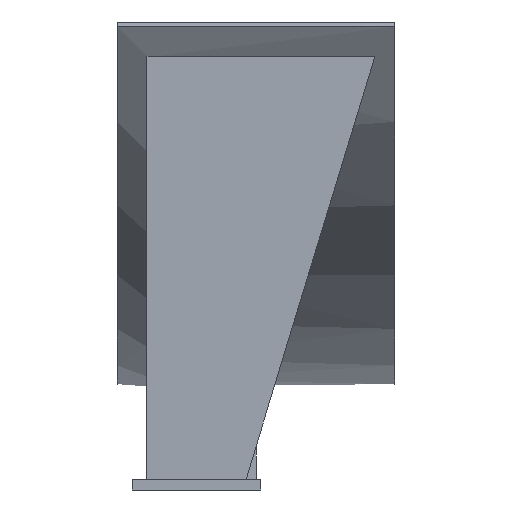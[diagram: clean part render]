
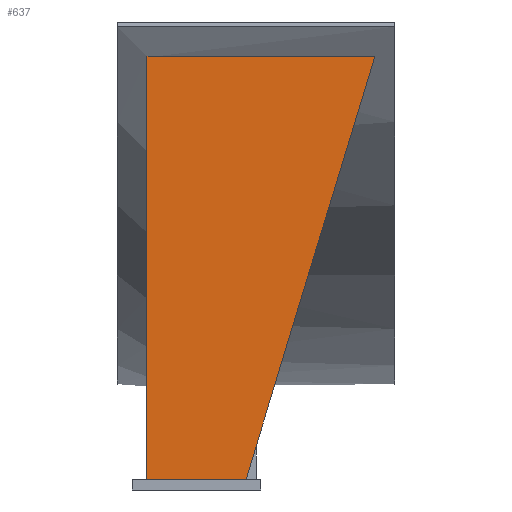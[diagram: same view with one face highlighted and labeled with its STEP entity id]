
A CAD part, front view. The second image highlights one B-rep face of the part: STEP entity #637.
In plain terms, the highlighted planar face has unit normal (0, -1, 0).
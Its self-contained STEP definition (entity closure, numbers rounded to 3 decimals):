
#55=FACE_OUTER_BOUND('',#89,.T.);
#89=EDGE_LOOP('',(#479,#480,#481,#482));
#150=LINE('',#993,#226);
#154=LINE('',#1001,#230);
#155=LINE('',#1003,#231);
#156=LINE('',#1004,#232);
#226=VECTOR('',#810,10.);
#230=VECTOR('',#816,10.);
#231=VECTOR('',#817,10.);
#232=VECTOR('',#818,10.);
#297=VERTEX_POINT('',#991);
#298=VERTEX_POINT('',#992);
#301=VERTEX_POINT('',#1000);
#302=VERTEX_POINT('',#1002);
#366=EDGE_CURVE('',#297,#298,#150,.T.);
#370=EDGE_CURVE('',#301,#298,#154,.T.);
#371=EDGE_CURVE('',#302,#301,#155,.T.);
#372=EDGE_CURVE('',#297,#302,#156,.T.);
#479=ORIENTED_EDGE('',*,*,#366,.T.);
#480=ORIENTED_EDGE('',*,*,#370,.F.);
#481=ORIENTED_EDGE('',*,*,#371,.F.);
#482=ORIENTED_EDGE('',*,*,#372,.F.);
#605=PLANE('',#699);
#637=ADVANCED_FACE('',(#55),#605,.T.);
#699=AXIS2_PLACEMENT_3D('',#999,#814,#815);
#810=DIRECTION('',(0.291,0.,0.957));
#814=DIRECTION('center_axis',(0.,-1.,0.));
#815=DIRECTION('ref_axis',(0.,0.,
-1.));
#816=DIRECTION('',(1.,0.,0.));
#817=DIRECTION('',(0.,0.,1.));
#818=DIRECTION('',(-1.,0.,0.));
#991=CARTESIAN_POINT('',(100.,-1234.,22.));
#992=CARTESIAN_POINT('',(360.,-1234.,875.238));
#993=CARTESIAN_POINT('',(210.458,-1234.,384.488));
#999=CARTESIAN_POINT('Origin',(-100.,-1234.,875.238));
#1000=CARTESIAN_POINT('',(-100.,-1234.,875.238));
#1001=CARTESIAN_POINT('',(-100.,-1234.,875.238));
#1002=CARTESIAN_POINT('',(-100.,-1234.,22.));
#1003=CARTESIAN_POINT('',(-100.,-1234.,22.));
#1004=CARTESIAN_POINT('',(-50.,-1234.,22.));
